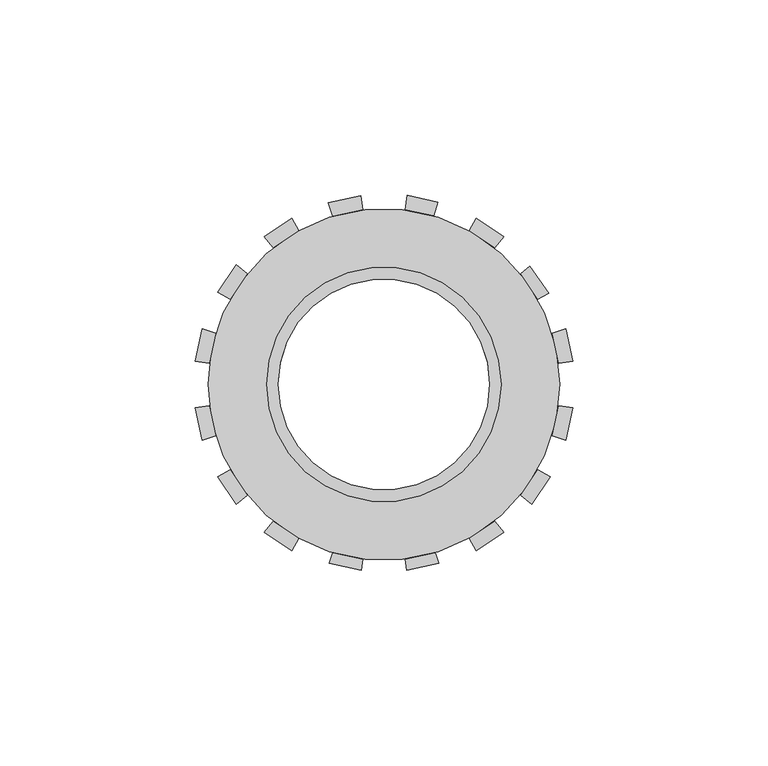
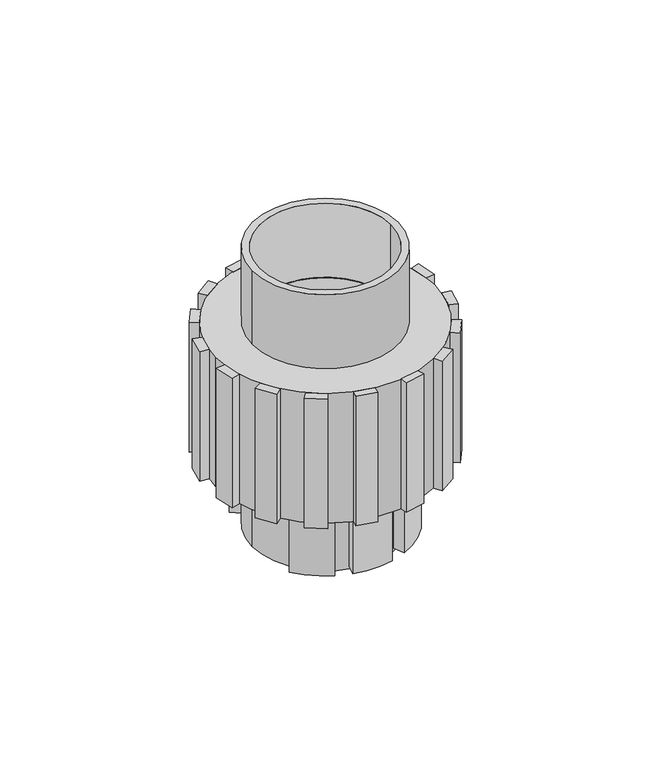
"""IFC4 building model written with IfcOpenShell, lengths in millimetres: valve geometry, Tuerca Union_Lubrizol_CPVC_FlowGuard_MX 50mm : Tuerca Union_Lubrizol_CPVC_FlowGuard_MX 50mm."""

from ifc_helpers import new_model, si_unit, point, frame, frame_2d, origin, origin_with_axes, origin_2d, place, context, project, spatial, polyline, circle_curve, trimmed, segment, composite_curve, outline, extrude, source, transform, mapped, element, save


def valve_a57cab75(model_context):
    return source(origin(), model_context, "Body", "SweptSolid", [
        extrude(outline(composite_curve([segment(polyline([(-6.9832567, 29.1759169), (-8.1690588, 33.6013904)]), True, "CONTINUOUS"), segment(trimmed(circle_curve(origin_2d(), 34.5801527), [point((-8.1690588, 33.6013904))], [point((8.1690588, 33.6013904))], False, "CARTESIAN"), True, "CONTINUOUS"), segment(polyline([(8.1690588, 33.6013904), (6.9832567, 29.1759169)]), True, "CONTINUOUS"), segment(trimmed(circle_curve(origin_2d(), 30.0), [point((6.9832567, 29.1759169))], [point((-6.9832567, 29.1759169))], True, "CARTESIAN"), True, "CONTINUOUS")], self_intersect=False)), frame((0.0, 0.0, 1.0184482), z_axis=(0.0, 0.0, 1.0), x_axis=(1.0, 0.0, 0.0)), (0.0, 0.0, 1.0), 30.3045193),
        extrude(outline(composite_curve([segment(trimmed(circle_curve(origin_2d(), 30.0), [point((-12.4596067, 27.2902584))], [point((-23.4653694, 18.6916141))], True, "CARTESIAN"), True, "CONTINUOUS"), segment(polyline([(-23.4653694, 18.6916141), (-27.1243877, 21.4488822)]), True, "CONTINUOUS"), segment(trimmed(circle_curve(origin_2d(), 34.5801527), [point((-27.1243877, 21.4488822))], [point((-14.2497754, 31.5076317))], False, "CARTESIAN"), True, "CONTINUOUS"), segment(polyline([(-14.2497754, 31.5076317), (-12.4596067, 27.2902584)]), True, "CONTINUOUS")], self_intersect=False)), frame((0.0, 0.0, 1.0184482), z_axis=(0.0, 0.0, 1.0), x_axis=(1.0, 0.0, 0.0)), (0.0, 0.0, 1.0), 30.3045193),
        extrude(outline(composite_curve([segment(polyline([(12.4596067, 27.2902584), (14.2497754, 31.5076317)]), True, "CONTINUOUS"), segment(trimmed(circle_curve(origin_2d(), 34.5801527), [point((14.2497754, 31.5076317))], [point((27.018574, 21.5820207))], False, "CARTESIAN"), True, "CONTINUOUS"), segment(polyline([(27.018574, 21.5820207), (23.359021, 18.8243496)]), True, "CONTINUOUS"), segment(trimmed(circle_curve(origin_2d(), 30.0), [point((23.359021, 18.8243496))], [point((12.4596067, 27.2902584))], True, "CARTESIAN"), True, "CONTINUOUS")], self_intersect=False)), frame((0.0, 0.0, 1.0184482), z_axis=(0.0, 0.0, 1.0), x_axis=(1.0, 0.0, 0.0)), (0.0, 0.0, 1.0), 30.3045193),
        extrude(outline(composite_curve([segment(trimmed(circle_curve(origin_2d(), 30.0), [point((-6.9832567, -29.1759169))], [point((6.9832567, -29.1759169))], True, "CARTESIAN"), True, "CONTINUOUS"), segment(polyline([(6.9832567, -29.1759169), (8.1690588, -33.6013904)]), True, "CONTINUOUS"), segment(trimmed(circle_curve(origin_2d(), 34.5801527), [point((8.1690588, -33.6013904))], [point((-8.1690588, -33.6013904))], False, "CARTESIAN"), True, "CONTINUOUS"), segment(polyline([(-8.1690588, -33.6013904), (-6.9832567, -29.1759169)]), True, "CONTINUOUS")], self_intersect=False)), frame((0.0, 0.0, 1.0184482), z_axis=(0.0, 0.0, 1.0), x_axis=(1.0, 0.0, 0.0)), (0.0, 0.0, 1.0), 30.3045193),
        extrude(outline(composite_curve([segment(polyline([(-12.4596067, -27.2902584), (-14.2497754, -31.5076317)]), True, "CONTINUOUS"), segment(trimmed(circle_curve(origin_2d(), 34.5801527), [point((-14.2497754, -31.5076317))], [point((-27.1243877, -21.4488822))], False, "CARTESIAN"), True, "CONTINUOUS"), segment(polyline([(-27.1243877, -21.4488822), (-23.4653694, -18.6916141)]), True, "CONTINUOUS"), segment(trimmed(circle_curve(origin_2d(), 30.0), [point((-23.4653694, -18.6916141))], [point((-12.4596067, -27.2902584))], True, "CARTESIAN"), True, "CONTINUOUS")], self_intersect=False)), frame((0.0, 0.0, 1.0184482), z_axis=(0.0, 0.0, 1.0), x_axis=(1.0, 0.0, 0.0)), (0.0, 0.0, 1.0), 30.3045193),
        extrude(outline(composite_curve([segment(trimmed(circle_curve(origin_2d(), 30.0), [point((12.4596067, -27.2902584))], [point((23.4653694, -18.6916141))], True, "CARTESIAN"), True, "CONTINUOUS"), segment(polyline([(23.4653694, -18.6916141), (27.1243877, -21.4488822)]), True, "CONTINUOUS"), segment(trimmed(circle_curve(origin_2d(), 34.5801527), [point((27.1243877, -21.4488822))], [point((14.2497754, -31.5076317))], False, "CARTESIAN"), True, "CONTINUOUS"), segment(polyline([(14.2497754, -31.5076317), (12.4596067, -27.2902584)]), True, "CONTINUOUS")], self_intersect=False)), frame((0.0, 0.0, 1.0184482), z_axis=(0.0, 0.0, 1.0), x_axis=(1.0, 0.0, 0.0)), (0.0, 0.0, 1.0), 30.3045193),
        extrude(outline(composite_curve([segment(polyline([(-28.2995836, 34.984769), (-30.5669756, 37.7847649)]), True, "CONTINUOUS"), segment(trimmed(circle_curve(frame_2d((0.0428158, -0.0151795)), 48.6394401), [point((-30.5669756, 37.7847649))], [point((-23.5380526, 42.5258333))], False, "CARTESIAN"), True, "CONTINUOUS"), segment(polyline([(-23.5380526, 42.5258333), (-21.7913216, 39.3746472)]), True, "CONTINUOUS"), segment(trimmed(circle_curve(frame_2d((0.0428158, -0.0151795)), 45.0365186), [point((-21.7913216, 39.3746472))], [point((-28.2995836, 34.984769))], True, "CARTESIAN"), True, "CONTINUOUS")], self_intersect=False)), frame((0.0, 0.0, 31.3229675), z_axis=(0.0, 0.0, 1.0), x_axis=(1.0, 0.0, 0.0)), (0.0, 0.0, 1.0), 56.3831933),
        extrude(outline(composite_curve([segment(trimmed(circle_curve(frame_2d((0.0428158, -0.0151795)), 45.0365186), [point((-5.4457551, 44.6856437))], [point((-13.1245879, 43.0534574))], True, "CARTESIAN"), True, "CONTINUOUS"), segment(polyline([(-13.1245879, 43.0534574), (-14.1779802, 46.4989484)]), True, "CONTINUOUS"), segment(trimmed(circle_curve(frame_2d((0.0428158, -0.0151795)), 48.6394401), [point((-14.1779802, 46.4989484))], [point((-5.8848408, 48.2617096))], False, "CARTESIAN"), True, "CONTINUOUS"), segment(polyline([(-5.8848408, 48.2617096), (-5.4457551, 44.6856437)]), True, "CONTINUOUS")], self_intersect=False)), frame((0.0, 0.0, 31.3229675), z_axis=(0.0, 0.0, 1.0), x_axis=(1.0, 0.0, 0.0)), (0.0, 0.0, 1.0), 56.3831933),
        extrude(outline(composite_curve([segment(trimmed(circle_curve(frame_2d((0.0428158, -0.0151795)), 45.0365186), [point((-34.9571327, 28.32722))], [point((-39.3470108, 21.818958))], True, "CARTESIAN"), True, "CONTINUOUS"), segment(polyline([(-39.3470108, 21.818958), (-42.498197, 23.565689)]), True, "CONTINUOUS"), segment(trimmed(circle_curve(frame_2d((0.0428158, -0.0151795)), 48.6394401), [point((-42.498197, 23.565689))], [point((-37.7571286, 30.594612))], False, "CARTESIAN"), True, "CONTINUOUS"), segment(polyline([(-37.7571286, 30.594612), (-34.9571327, 28.32722)]), True, "CONTINUOUS")], self_intersect=False)), frame((0.0, 0.0, 31.3229675), z_axis=(0.0, 0.0, 1.0), x_axis=(1.0, 0.0, 0.0)), (0.0, 0.0, 1.0), 56.3831933),
        extrude(outline(composite_curve([segment(polyline([(-44.6580073, 5.4733915), (-48.2340732, 5.9124771)]), True, "CONTINUOUS"), segment(trimmed(circle_curve(frame_2d((0.0428158, -0.0151795)), 48.6394401), [point((-48.2340732, 5.9124771))], [point((-46.471312, 14.2056165))], False, "CARTESIAN"), True, "CONTINUOUS"), segment(polyline([(-46.471312, 14.2056165), (-43.0258211, 13.1522242)]), True, "CONTINUOUS"), segment(trimmed(circle_curve(frame_2d((0.0428158, -0.0151795)), 45.0365186), [point((-43.0258211, 13.1522242))], [point((-44.6580073, 5.4733915))], True, "CARTESIAN"), True, "CONTINUOUS")], self_intersect=False)), frame((0.0, 0.0, 31.3229675), z_axis=(0.0, 0.0, 1.0), x_axis=(1.0, 0.0, 0.0)), (0.0, 0.0, 1.0), 56.3831933),
        extrude(outline(composite_curve([segment(trimmed(circle_curve(frame_2d((0.0428158, -0.0151795)), 45.0365186), [point((28.3852153, 34.984769))], [point((21.8769533, 39.3746472))], True, "CARTESIAN"), True, "CONTINUOUS"), segment(polyline([(21.8769533, 39.3746472), (23.6236843, 42.5258333)]), True, "CONTINUOUS"), segment(trimmed(circle_curve(frame_2d((0.0428158, -0.0151795)), 48.6394401), [point((23.6236843, 42.5258333))], [point((30.6526073, 37.7847649))], False, "CARTESIAN"), True, "CONTINUOUS"), segment(polyline([(30.6526073, 37.7847649), (28.3852153, 34.984769)]), True, "CONTINUOUS")], self_intersect=False)), frame((0.0, 0.0, 31.3229675), z_axis=(0.0, 0.0, 1.0), x_axis=(1.0, 0.0, 0.0)), (0.0, 0.0, 1.0), 56.3831933),
        extrude(outline(composite_curve([segment(polyline([(5.5313868, 44.6856437), (5.9859537, 48.3877941)]), True, "CONTINUOUS"), segment(trimmed(circle_curve(frame_2d((-0.5249055, 0.1860945)), 48.6394401), [point((5.9859537, 48.3877941))], [point((13.8266232, 46.6600523))], False, "CARTESIAN"), True, "CONTINUOUS"), segment(polyline([(13.8266232, 46.6600523), (12.7648393, 43.1871136)]), True, "CONTINUOUS"), segment(trimmed(circle_curve(frame_2d((0.0428158, -0.0151795)), 45.0365186), [point((12.7648393, 43.1871136))], [point((5.5313868, 44.6856437))], True, "CARTESIAN"), True, "CONTINUOUS")], self_intersect=False)), frame((0.0, 0.0, 31.3229675), z_axis=(0.0, 0.0, 1.0), x_axis=(1.0, 0.0, 0.0)), (0.0, 0.0, 1.0), 56.3831933),
        extrude(outline(composite_curve([segment(polyline([(35.0427644, 28.32722), (37.3578091, 30.2019063)]), True, "CONTINUOUS"), segment(trimmed(circle_curve(frame_2d((0.2407268, -1.2324274)), 48.6394401), [point((37.3578091, 30.2019063))], [point((42.2069683, 23.3567919))], False, "CARTESIAN"), True, "CONTINUOUS"), segment(polyline([(42.2069683, 23.3567919), (39.4326425, 21.818958)]), True, "CONTINUOUS"), segment(trimmed(circle_curve(frame_2d((0.0428158, -0.0151795)), 45.0365186), [point((39.4326425, 21.818958))], [point((35.0427644, 28.32722))], True, "CARTESIAN"), True, "CONTINUOUS")], self_intersect=False)), frame((0.0, 0.0, 31.3229675), z_axis=(0.0, 0.0, 1.0), x_axis=(1.0, 0.0, 0.0)), (0.0, 0.0, 1.0), 56.3831933),
        extrude(outline(composite_curve([segment(trimmed(circle_curve(frame_2d((0.0428158, -0.0151795)), 45.0365186), [point((44.743639, 5.4733915))], [point((43.1114527, 13.1522242))], True, "CARTESIAN"), True, "CONTINUOUS"), segment(polyline([(43.1114527, 13.1522242), (46.5569437, 14.2056165)]), True, "CONTINUOUS"), segment(trimmed(circle_curve(frame_2d((0.0428158, -0.0151795)), 48.6394401), [point((46.5569437, 14.2056165))], [point((48.3197049, 5.9124771))], False, "CARTESIAN"), True, "CONTINUOUS"), segment(polyline([(48.3197049, 5.9124771), (44.743639, 5.4733915)]), True, "CONTINUOUS")], self_intersect=False)), frame((0.0, 0.0, 31.3229675), z_axis=(0.0, 0.0, 1.0), x_axis=(1.0, 0.0, 0.0)), (0.0, 0.0, 1.0), 56.3831933),
        extrude(outline(composite_curve([segment(trimmed(circle_curve(frame_2d((0.0428158, -0.0151795)), 45.0365186), [point((-28.2995836, -35.015128))], [point((-21.7913216, -39.4050062))], True, "CARTESIAN"), True, "CONTINUOUS"), segment(polyline([(-21.7913216, -39.4050062), (-23.5380526, -42.5561923)]), True, "CONTINUOUS"), segment(trimmed(circle_curve(frame_2d((0.0428158, -0.0151795)), 48.6394401), [point((-23.5380526, -42.5561923))], [point((-30.5669756, -37.8151239))], False, "CARTESIAN"), True, "CONTINUOUS"), segment(polyline([(-30.5669756, -37.8151239), (-28.2995836, -35.015128)]), True, "CONTINUOUS")], self_intersect=False)), frame((0.0, 0.0, 31.3229675), z_axis=(0.0, 0.0, 1.0), x_axis=(1.0, 0.0, 0.0)), (0.0, 0.0, 1.0), 56.3831933),
        extrude(outline(composite_curve([segment(polyline([(-5.4457551, -44.7160027), (-5.7947864, -47.5586341)]), True, "CONTINUOUS"), segment(trimmed(circle_curve(frame_2d((0.0428158, -0.0151795)), 47.9004977), [point((-5.7947864, -47.5586341))], [point((-13.9619343, -45.8226532))], False, "CARTESIAN"), True, "CONTINUOUS"), segment(polyline([(-13.9619343, -45.8226532), (-13.1245879, -43.0838164)]), True, "CONTINUOUS"), segment(trimmed(circle_curve(frame_2d((0.0428158, -0.0151795)), 45.0365186), [point((-13.1245879, -43.0838164))], [point((-5.4457551, -44.7160027))], True, "CARTESIAN"), True, "CONTINUOUS")], self_intersect=False)), frame((0.0, 0.0, 31.3229675), z_axis=(0.0, 0.0, 1.0), x_axis=(1.0, 0.0, 0.0)), (0.0, 0.0, 1.0), 56.3831933),
        extrude(outline(composite_curve([segment(polyline([(-34.9571327, -28.357579), (-37.7571286, -30.6249709)]), True, "CONTINUOUS"), segment(trimmed(circle_curve(frame_2d((0.0428158, -0.0151795)), 48.6394401), [point((-37.7571286, -30.6249709))], [point((-42.498197, -23.5960479))], False, "CARTESIAN"), True, "CONTINUOUS"), segment(polyline([(-42.498197, -23.5960479), (-39.3470108, -21.8493169)]), True, "CONTINUOUS"), segment(trimmed(circle_curve(frame_2d((0.0428158, -0.0151795)), 45.0365186), [point((-39.3470108, -21.8493169))], [point((-34.9571327, -28.357579))], True, "CARTESIAN"), True, "CONTINUOUS")], self_intersect=False)), frame((0.0, 0.0, 31.3229675), z_axis=(0.0, 0.0, 1.0), x_axis=(1.0, 0.0, 0.0)), (0.0, 0.0, 1.0), 56.3831933),
        extrude(outline(composite_curve([segment(trimmed(circle_curve(frame_2d((0.0428158, -0.0151795)), 45.0365186), [point((-44.6580073, -5.5037504))], [point((-43.0258211, -13.1825832))], True, "CARTESIAN"), True, "CONTINUOUS"), segment(polyline([(-43.0258211, -13.1825832), (-46.471312, -14.2359755)]), True, "CONTINUOUS"), segment(trimmed(circle_curve(frame_2d((0.0428158, -0.0151795)), 48.6394401), [point((-46.471312, -14.2359755))], [point((-48.2340732, -5.9428361))], False, "CARTESIAN"), True, "CONTINUOUS"), segment(polyline([(-48.2340732, -5.9428361), (-44.6580073, -5.5037504)]), True, "CONTINUOUS")], self_intersect=False)), frame((0.0, 0.0, 31.3229675), z_axis=(0.0, 0.0, 1.0), x_axis=(1.0, 0.0, 0.0)), (0.0, 0.0, 1.0), 56.3831933),
        extrude(outline(composite_curve([segment(polyline([(28.3852153, -35.015128), (30.6526073, -37.8151239)]), True, "CONTINUOUS"), segment(trimmed(circle_curve(frame_2d((0.0428158, -0.0151795)), 48.6394401), [point((30.6526073, -37.8151239))], [point((23.6236843, -42.5561923))], False, "CARTESIAN"), True, "CONTINUOUS"), segment(polyline([(23.6236843, -42.5561923), (21.8769533, -39.4050062)]), True, "CONTINUOUS"), segment(trimmed(circle_curve(frame_2d((0.0428158, -0.0151795)), 45.0365186), [point((21.8769533, -39.4050062))], [point((28.3852153, -35.015128))], True, "CARTESIAN"), True, "CONTINUOUS")], self_intersect=False)), frame((0.0, 0.0, 31.3229675), z_axis=(0.0, 0.0, 1.0), x_axis=(1.0, 0.0, 0.0)), (0.0, 0.0, 1.0), 56.3831933),
        extrude(outline(composite_curve([segment(trimmed(circle_curve(frame_2d((0.0428158, -0.0151795)), 45.0365186), [point((5.5313868, -44.7160027))], [point((13.2102195, -43.0838164))], True, "CARTESIAN"), True, "CONTINUOUS"), segment(polyline([(13.2102195, -43.0838164), (14.047566, -45.8226532)]), True, "CONTINUOUS"), segment(trimmed(circle_curve(frame_2d((0.0428158, -0.0151795)), 47.9004977), [point((14.047566, -45.8226532))], [point((5.880418, -47.5586341))], False, "CARTESIAN"), True, "CONTINUOUS"), segment(polyline([(5.880418, -47.5586341), (5.5313868, -44.7160027)]), True, "CONTINUOUS")], self_intersect=False)), frame((0.0, 0.0, 31.3229675), z_axis=(0.0, 0.0, 1.0), x_axis=(1.0, 0.0, 0.0)), (0.0, 0.0, 1.0), 56.3831933),
        extrude(outline(composite_curve([segment(trimmed(circle_curve(frame_2d((0.0428158, -0.0151795)), 45.0365186), [point((35.0427644, -28.357579))], [point((39.4326425, -21.8493169))], True, "CARTESIAN"), True, "CONTINUOUS"), segment(polyline([(39.4326425, -21.8493169), (42.5838286, -23.5960479)]), True, "CONTINUOUS"), segment(trimmed(circle_curve(frame_2d((0.0428158, -0.0151795)), 48.6394401), [point((42.5838286, -23.5960479))], [point((37.8427602, -30.6249709))], False, "CARTESIAN"), True, "CONTINUOUS"), segment(polyline([(37.8427602, -30.6249709), (35.0427644, -28.357579)]), True, "CONTINUOUS")], self_intersect=False)), frame((0.0, 0.0, 31.3229675), z_axis=(0.0, 0.0, 1.0), x_axis=(1.0, 0.0, 0.0)), (0.0, 0.0, 1.0), 56.3831933),
        extrude(outline(composite_curve([segment(polyline([(44.743639, -5.5037504), (48.3197049, -5.9428361)]), True, "CONTINUOUS"), segment(trimmed(circle_curve(frame_2d((0.0428158, -0.0151795)), 48.6394401), [point((48.3197049, -5.9428361))], [point((46.5569437, -14.2359755))], False, "CARTESIAN"), True, "CONTINUOUS"), segment(polyline([(46.5569437, -14.2359755), (43.1114527, -13.1825832)]), True, "CONTINUOUS"), segment(trimmed(circle_curve(frame_2d((0.0428158, -0.0151795)), 45.0365186), [point((43.1114527, -13.1825832))], [point((44.743639, -5.5037504))], True, "CARTESIAN"), True, "CONTINUOUS")], self_intersect=False)), frame((0.0, 0.0, 31.3229675), z_axis=(0.0, 0.0, 1.0), x_axis=(1.0, 0.0, 0.0)), (0.0, 0.0, 1.0), 56.3831933),
        extrude(outline(composite_curve([segment(trimmed(circle_curve(origin_2d(), 30.0), [point((-30.0, 0.0))], [point((30.0, 0.0))], False, "CARTESIAN"), True, "CONTINUOUS"), segment(trimmed(circle_curve(origin_2d(), 30.0), [point((30.0, 0.0))], [point((-30.0, 0.0))], False, "CARTESIAN"), True, "CONTINUOUS")], self_intersect=False), holes=[composite_curve([segment(trimmed(circle_curve(origin_2d(), 27.0), [point((-27.0, 0.0))], [point((27.0, 0.0))], True, "CARTESIAN"), True, "CONTINUOUS"), segment(trimmed(circle_curve(origin_2d(), 27.0), [point((27.0, 0.0))], [point((-27.0, 0.0))], True, "CARTESIAN"), True, "CONTINUOUS")], self_intersect=False)]), origin_with_axes(), (0.0, 0.0, 1.0), 31.3229675),
        extrude(outline(composite_curve([segment(trimmed(circle_curve(origin_2d(), 45.0), [point((-45.0, 0.0))], [point((45.0, 0.0))], False, "CARTESIAN"), True, "CONTINUOUS"), segment(trimmed(circle_curve(origin_2d(), 45.0), [point((45.0, 0.0))], [point((-45.0, 0.0))], False, "CARTESIAN"), True, "CONTINUOUS")], self_intersect=False), holes=[composite_curve([segment(trimmed(circle_curve(origin_2d(), 27.0), [point((-27.0, 0.0))], [point((27.0, 0.0))], True, "CARTESIAN"), True, "CONTINUOUS"), segment(trimmed(circle_curve(origin_2d(), 27.0), [point((27.0, 0.0))], [point((-27.0, 0.0))], True, "CARTESIAN"), True, "CONTINUOUS")], self_intersect=False)]), frame((0.0, 0.0, 31.3229675), z_axis=(0.0, 0.0, 1.0), x_axis=(1.0, 0.0, 0.0)), (0.0, 0.0, 1.0), 56.3831933),
        extrude(outline(composite_curve([segment(trimmed(circle_curve(origin_2d(), 30.0), [point((-30.0, 0.0))], [point((30.0, 0.0))], False, "CARTESIAN"), True, "CONTINUOUS"), segment(trimmed(circle_curve(origin_2d(), 30.0), [point((30.0, 0.0))], [point((-30.0, 0.0))], False, "CARTESIAN"), True, "CONTINUOUS")], self_intersect=False), holes=[composite_curve([segment(trimmed(circle_curve(origin_2d(), 27.0), [point((-27.0, 0.0))], [point((27.0, 0.0))], True, "CARTESIAN"), True, "CONTINUOUS"), segment(trimmed(circle_curve(origin_2d(), 27.0), [point((27.0, 0.0))], [point((-27.0, 0.0))], True, "CARTESIAN"), True, "CONTINUOUS")], self_intersect=False)]), frame((0.0, 0.0, 87.7061609), z_axis=(0.0, 0.0, 1.0), x_axis=(1.0, 0.0, 0.0)), (0.0, 0.0, 1.0), 32.4547162),
    ])


if __name__ == "__main__":
    model = new_model("IFC4")
    model_context = context("Model", 3, world=origin())
    ifc_project = project(units=[si_unit("LENGTHUNIT", "METRE", prefix="MILLI")], contexts=[model_context])
    site = spatial("IfcSite", under=ifc_project)
    building = spatial("IfcBuilding", under=site)
    placement = place(None, origin())
    valve_shape = valve_a57cab75(model_context)
    element("IfcValve", 1, ObjectType="Tuerca Union_Lubrizol_CPVC_FlowGuard_MX 50mm : Tuerca Union_Lubrizol_CPVC_FlowGuard_MX 50mm", at=placement, inside=building, context=model_context, shape_type="MappedRepresentation", body=[
        mapped(valve_shape, transform((0.0, 0.0, 0.0), x_axis=(1.0, 0.0, 0.0), y_axis=(0.0, 1.0, 0.0), z_axis=(0.0, 0.0, 1.0))),
    ])
    save(model, "model.ifc")
